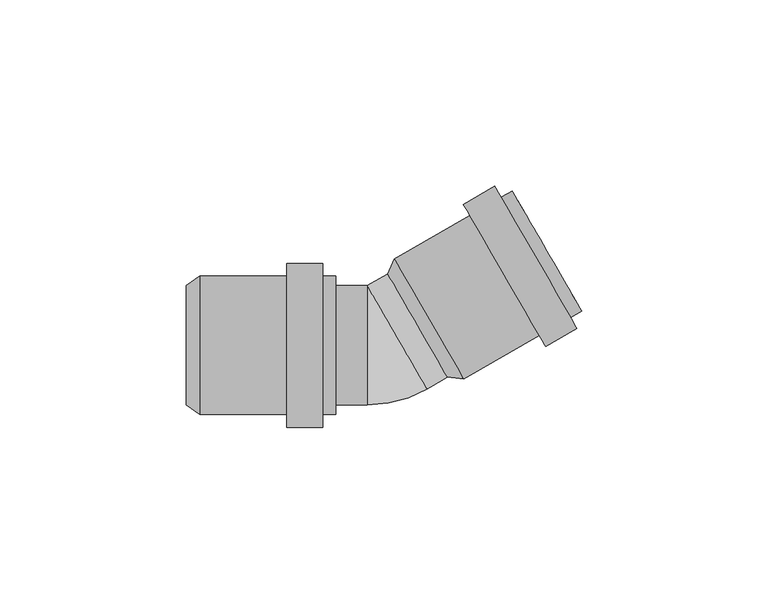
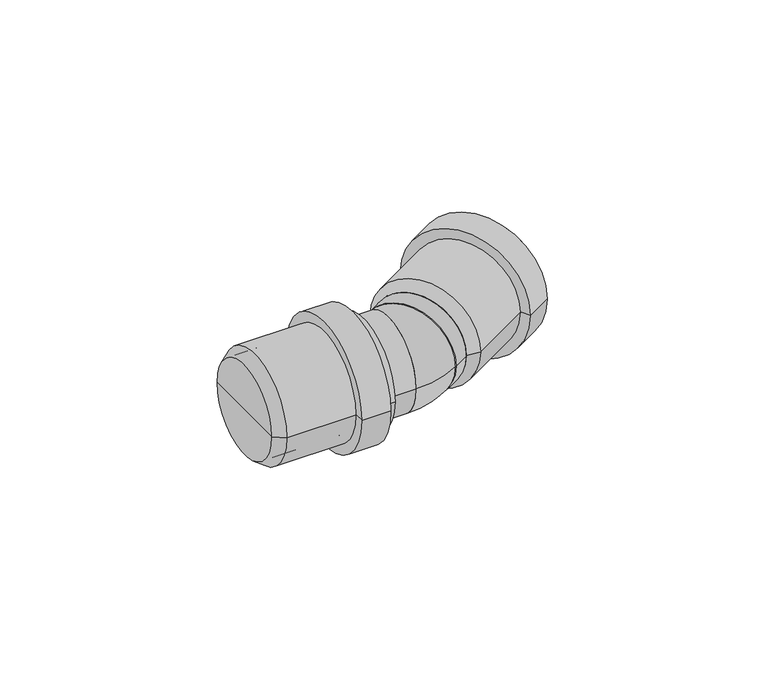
"""IFC4 building model written with IfcOpenShell, lengths in millimetres: pipe fitting geometry, pf_HTB : pf_HTB."""

from ifc_helpers import new_model, si_unit, point, frame, origin, origin_2d, place, context, project, spatial, polyline, circle_curve, ellipse_curve, trimmed, segment, composite_curve, outline, extrude, source, transform, mapped, element, save
from ifc_brep_helpers import plane_surface, cylinder_surface, revolved_surface, advanced_brep


def pipe_fitting_9d65ed2c(model_context):
    return source(origin(), model_context, "Body", "SolidModel", [
        advanced_brep(
        [(17.1798693, -8.5564065, 0.0), (1.1798693, 19.1564065, 0.0), (2.9109582, 23.1580725, 0.0), (21.5109582, -9.0580725, 0.0), (9.1798693, 5.3, 0.0), (53.1208854, 9.1919275, 0.0), (34.5208854, 41.4080725, 0.0), (35.8208854, 39.1564065, 0.0), (51.8208854, 11.4435935, 0.0), (50.1763991, 7.4919275, 0.0), (31.5763991, 39.7080725, 0.0), (51.8763991, 4.5474411, 0.0), (29.8763991, 42.6525589, 0.0), (43.4759526, -0.3025589, 0.0), (21.4759526, 37.8025589, 0.0), (41.7759526, 2.6419275, 0.0), (23.1759526, 34.8580725, 0.0), (20.2109582, -6.8064065, 0.0), (4.2109582, 20.9064065, 0.0), (12.2109582, 7.05, 0.0)],
        [
            (0, 1, circle_curve(frame((9.1798693, 5.3, 0.0), z_axis=(0.8660254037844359, 0.5000000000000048, 0.0), x_axis=(-0.5000000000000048, 0.8660254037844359, 0.0)), 16.0)),
            (1, 2),
            (2, 3, circle_curve(frame((12.2109582, 7.05, 0.0), z_axis=(-0.8660254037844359, -0.5000000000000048, 0.0), x_axis=(-0.5000000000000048, 0.8660254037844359, 0.0)), 18.6)),
            (3, 0),
            (1, 0, circle_curve(frame((9.1798693, 5.3, 0.0), z_axis=(0.8660254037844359, 0.5000000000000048, 0.0), x_axis=(-0.5000000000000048, 0.8660254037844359, 0.0)), 16.0)),
            (3, 2, circle_curve(frame((12.2109582, 7.05, 0.0), z_axis=(-0.8660254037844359, -0.5000000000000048, 0.0), x_axis=(-0.5000000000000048, 0.8660254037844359, 0.0)), 18.6)),
            (4, 1),
            (0, 4),
            (5, 6, circle_curve(frame((43.8208854, 25.3, 0.0), z_axis=(0.8660254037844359, 0.5000000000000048, 0.0), x_axis=(-0.5000000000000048, 0.8660254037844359, 0.0)), 18.6)),
            (6, 7),
            (7, 8, circle_curve(frame((43.8208854, 25.3, 0.0), z_axis=(-0.8660254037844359, -0.5000000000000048, 0.0), x_axis=(-0.5000000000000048, 0.8660254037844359, 0.0)), 16.0)),
            (8, 5),
            (6, 5, circle_curve(frame((43.8208854, 25.3, 0.0), z_axis=(0.8660254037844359, 0.5000000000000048, 0.0), x_axis=(-0.5000000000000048, 0.8660254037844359, 0.0)), 18.6)),
            (8, 7, circle_curve(frame((43.8208854, 25.3, 0.0), z_axis=(-0.8660254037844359, -0.5000000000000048, 0.0), x_axis=(-0.5000000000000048, 0.8660254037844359, 0.0)), 16.0)),
            (9, 10, circle_curve(frame((40.8763991, 23.6, 0.0), z_axis=(0.8660254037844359, 0.5000000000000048, 0.0), x_axis=(-0.5000000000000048, 0.8660254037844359, 0.0)), 18.6)),
            (10, 6),
            (5, 9),
            (10, 9, circle_curve(frame((40.8763991, 23.6, 0.0), z_axis=(0.8660254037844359, 0.5000000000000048, 0.0), x_axis=(-0.5000000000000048, 0.8660254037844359, 0.0)), 18.6)),
            (11, 12, circle_curve(frame((40.8763991, 23.6, 0.0), z_axis=(0.8660254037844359, 0.5000000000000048, 0.0), x_axis=(-0.5000000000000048, 0.8660254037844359, 0.0)), 22.0)),
            (12, 10),
            (9, 11),
            (12, 11, circle_curve(frame((40.8763991, 23.6, 0.0), z_axis=(0.8660254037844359, 0.5000000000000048, 0.0), x_axis=(-0.5000000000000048, 0.8660254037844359, 0.0)), 22.0)),
            (13, 14, circle_curve(frame((32.4759526, 18.75, 0.0), z_axis=(0.8660254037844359, 0.5000000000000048, 0.0), x_axis=(-0.5000000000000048, 0.8660254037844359, 0.0)), 22.0)),
            (14, 12),
            (11, 13),
            (14, 13, circle_curve(frame((32.4759526, 18.75, 0.0), z_axis=(0.8660254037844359, 0.5000000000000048, 0.0), x_axis=(-0.5000000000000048, 0.8660254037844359, 0.0)), 22.0)),
            (15, 16, circle_curve(frame((32.4759526, 18.75, 0.0), z_axis=(0.8660254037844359, 0.5000000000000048, 0.0), x_axis=(-0.5000000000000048, 0.8660254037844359, 0.0)), 18.6)),
            (16, 14),
            (13, 15),
            (16, 15, circle_curve(frame((32.4759526, 18.75, 0.0), z_axis=(0.8660254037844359, 0.5000000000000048, 0.0), x_axis=(-0.5000000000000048, 0.8660254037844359, 0.0)), 18.6)),
            (2, 16),
            (15, 3),
            (17, 18, circle_curve(frame((12.2109582, 7.05, 0.0), z_axis=(0.8660254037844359, 0.5000000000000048, 0.0), x_axis=(-0.5000000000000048, 0.8660254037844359, 0.0)), 16.0)),
            (18, 19),
            (19, 17),
            (18, 17, circle_curve(frame((12.2109582, 7.05, 0.0), z_axis=(0.8660254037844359, 0.5000000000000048, 0.0), x_axis=(-0.5000000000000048, 0.8660254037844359, 0.0)), 16.0)),
            (7, 18),
            (17, 8),
        ],
        [
            revolved_surface(polyline([(2.9109582, 23.1580725, 0.0), (1.1798693, 19.1564065, 0.0)]), (9.1798693, 5.3, 0.0), (-0.8660254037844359, -0.5000000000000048, 0.0)),
            plane_surface(frame((9.1798693, 5.3, 0.0), z_axis=(-0.8660254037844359, -0.5000000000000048, 0.0), x_axis=(-0.5000000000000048, 0.8660254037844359, 0.0))),
            plane_surface(frame((43.8208854, 25.3, 0.0), z_axis=(0.8660254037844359, 0.5000000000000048, 0.0), x_axis=(-0.5000000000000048, 0.8660254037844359, 0.0))),
            cylinder_surface(frame((9.1798693, 5.3, 0.0), z_axis=(-0.8660254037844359, -0.5000000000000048, 0.0), x_axis=(-0.5000000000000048, 0.8660254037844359, 0.0)), 18.6),
            plane_surface(frame((40.8763991, 23.6, 0.0), z_axis=(0.8660254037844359, 0.5000000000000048, 0.0), x_axis=(-0.5000000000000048, 0.8660254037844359, 0.0))),
            cylinder_surface(frame((9.1798693, 5.3, 0.0), z_axis=(-0.8660254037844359, -0.5000000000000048, 0.0), x_axis=(-0.5000000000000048, 0.8660254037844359, 0.0)), 22.0),
            plane_surface(frame((32.4759526, 18.75, 0.0), z_axis=(-0.8660254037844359, -0.5000000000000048, 0.0), x_axis=(-0.5000000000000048, 0.8660254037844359, 0.0))),
            plane_surface(frame((12.2109582, 7.05, 0.0), z_axis=(0.8660254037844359, 0.5000000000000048, 0.0), x_axis=(-0.5000000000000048, 0.8660254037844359, 0.0))),
            revolved_surface(polyline([(4.210958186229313, 20.90640644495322, 0.0), (35.82088542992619, 39.15640644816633, 0.0)]), (9.1798693, 5.3, 0.0), (-0.8660254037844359, -0.5000000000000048, 0.0)),
        ],
        [
            (0, [[1, 2, 3, 4]]),
            (0, [[5, -4, 6, -2]]),
            (1, [[7, -1, 8]]),
            (1, [[-8, -5, -7]]),
            (2, [[9, 10, 11, 12]]),
            (2, [[13, -12, 14, -10]]),
            (3, [[15, 16, -9, 17]]),
            (3, [[18, -17, -13, -16]]),
            (4, [[19, 20, -15, 21]]),
            (4, [[22, -21, -18, -20]]),
            (5, [[23, 24, -19, 25]]),
            (5, [[26, -25, -22, -24]]),
            (6, [[27, 28, -23, 29]]),
            (6, [[30, -29, -26, -28]]),
            (3, [[-3, 31, -27, 32]]),
            (3, [[-6, -32, -30, -31]]),
            (7, [[33, 34, 35]]),
            (7, [[36, -35, -34]]),
            (8, [[-11, 37, -33, 38]]),
            (8, [[-14, -38, -36, -37]]),
        ],
    ),
        advanced_brep(
        [(-52.8, -16.0, 0.0), (-52.8, 16.0, 0.0), (-49.3, 18.6, 0.0), (-49.3, -18.6, 0.0), (-52.8, 0.0, 0.0), (-12.8, -18.6, 0.0), (-12.8, 18.6, 0.0), (-12.8, 16.0, 0.0), (-12.8, -16.0, 0.0), (-16.2, -18.6, 0.0), (-16.2, 18.6, 0.0), (-16.2, -22.0, 0.0), (-16.2, 22.0, 0.0), (-25.9, -22.0, 0.0), (-25.9, 22.0, 0.0), (-25.9, -18.6, 0.0), (-25.9, 18.6, 0.0), (-49.3, -16.0, 0.0), (-49.3, 16.0, 0.0), (-49.3, 0.0, 0.0)],
        [
            (0, 1, circle_curve(frame((-52.8, 0.0, 0.0), z_axis=(1.0, 0.0, 0.0), x_axis=(0.0, 1.0, 0.0)), 16.0)),
            (1, 2),
            (2, 3, circle_curve(frame((-49.3, 0.0, 0.0), z_axis=(-1.0, 0.0, 0.0), x_axis=(0.0, 1.0, 0.0)), 18.6)),
            (3, 0),
            (1, 0, circle_curve(frame((-52.8, 0.0, 0.0), z_axis=(1.0, 0.0, 0.0), x_axis=(0.0, 1.0, 0.0)), 16.0)),
            (3, 2, circle_curve(frame((-49.3, 0.0, 0.0), z_axis=(-1.0, 0.0, 0.0), x_axis=(0.0, 1.0, 0.0)), 18.6)),
            (4, 1),
            (0, 4),
            (5, 6, circle_curve(frame((-12.8, 0.0, 0.0), z_axis=(1.0, 0.0, 0.0), x_axis=(0.0, 1.0, 0.0)), 18.6)),
            (6, 7),
            (7, 8, circle_curve(frame((-12.8, 0.0, 0.0), z_axis=(-1.0, 0.0, 0.0), x_axis=(0.0, 1.0, 0.0)), 16.0)),
            (8, 5),
            (6, 5, circle_curve(frame((-12.8, 0.0, 0.0), z_axis=(1.0, 0.0, 0.0), x_axis=(0.0, 1.0, 0.0)), 18.6)),
            (8, 7, circle_curve(frame((-12.8, 0.0, 0.0), z_axis=(-1.0, 0.0, 0.0), x_axis=(0.0, 1.0, 0.0)), 16.0)),
            (9, 10, circle_curve(frame((-16.2, 0.0, 0.0), z_axis=(1.0, 0.0, 0.0), x_axis=(0.0, 1.0, 0.0)), 18.6)),
            (10, 6),
            (5, 9),
            (10, 9, circle_curve(frame((-16.2, 0.0, 0.0), z_axis=(1.0, 0.0, 0.0), x_axis=(0.0, 1.0, 0.0)), 18.6)),
            (11, 12, circle_curve(frame((-16.2, 0.0, 0.0), z_axis=(1.0, 0.0, 0.0), x_axis=(0.0, 1.0, 0.0)), 22.0)),
            (12, 10),
            (9, 11),
            (12, 11, circle_curve(frame((-16.2, 0.0, 0.0), z_axis=(1.0, 0.0, 0.0), x_axis=(0.0, 1.0, 0.0)), 22.0)),
            (13, 14, circle_curve(frame((-25.9, 0.0, 0.0), z_axis=(1.0, 0.0, 0.0), x_axis=(0.0, 1.0, 0.0)), 22.0)),
            (14, 12),
            (11, 13),
            (14, 13, circle_curve(frame((-25.9, 0.0, 0.0), z_axis=(1.0, 0.0, 0.0), x_axis=(0.0, 1.0, 0.0)), 22.0)),
            (15, 16, circle_curve(frame((-25.9, 0.0, 0.0), z_axis=(1.0, 0.0, 0.0), x_axis=(0.0, 1.0, 0.0)), 18.6)),
            (16, 14),
            (13, 15),
            (16, 15, circle_curve(frame((-25.9, 0.0, 0.0), z_axis=(1.0, 0.0, 0.0), x_axis=(0.0, 1.0, 0.0)), 18.6)),
            (2, 16),
            (15, 3),
            (17, 18, circle_curve(frame((-49.3, 0.0, 0.0), z_axis=(1.0, 0.0, 0.0), x_axis=(0.0, 1.0, 0.0)), 16.0)),
            (18, 19),
            (19, 17),
            (18, 17, circle_curve(frame((-49.3, 0.0, 0.0), z_axis=(1.0, 0.0, 0.0), x_axis=(0.0, 1.0, 0.0)), 16.0)),
            (7, 18),
            (17, 8),
        ],
        [
            revolved_surface(polyline([(-49.3, 18.6, 0.0), (-52.8, 16.0, 0.0)]), (-52.8, 0.0, 0.0), (-1.0, 0.0, 0.0)),
            plane_surface(frame((-52.8, 0.0, 0.0), z_axis=(-1.0, 0.0, 0.0), x_axis=(0.0, 1.0, 0.0))),
            plane_surface(frame((-12.8, 0.0, 0.0), z_axis=(1.0, 0.0, 0.0), x_axis=(0.0, 1.0, 0.0))),
            cylinder_surface(frame((-52.8, 0.0, 0.0), z_axis=(-1.0, 0.0, 0.0), x_axis=(0.0, 1.0, 0.0)), 18.6),
            plane_surface(frame((-16.2, 0.0, 0.0), z_axis=(1.0, 0.0, 0.0), x_axis=(0.0, 1.0, 0.0))),
            cylinder_surface(frame((-52.8, 0.0, 0.0), z_axis=(-1.0, 0.0, 0.0), x_axis=(0.0, 1.0, 0.0)), 22.0),
            plane_surface(frame((-25.9, 0.0, 0.0), z_axis=(-1.0, 0.0, 0.0), x_axis=(0.0, 1.0, 0.0))),
            plane_surface(frame((-49.3, 0.0, 0.0), z_axis=(1.0, 0.0, 0.0), x_axis=(0.0, 1.0, 0.0))),
            revolved_surface(polyline([(-49.3, 16.0, 0.0), (-12.799999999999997, 16.0, 0.0)]), (-52.8, 0.0, 0.0), (-1.0, 0.0, 0.0)),
        ],
        [
            (0, [[1, 2, 3, 4]]),
            (0, [[5, -4, 6, -2]]),
            (1, [[7, -1, 8]]),
            (1, [[-8, -5, -7]]),
            (2, [[9, 10, 11, 12]]),
            (2, [[13, -12, 14, -10]]),
            (3, [[15, 16, -9, 17]]),
            (3, [[18, -17, -13, -16]]),
            (4, [[19, 20, -15, 21]]),
            (4, [[22, -21, -18, -20]]),
            (5, [[23, 24, -19, 25]]),
            (5, [[26, -25, -22, -24]]),
            (6, [[27, 28, -23, 29]]),
            (6, [[30, -29, -26, -28]]),
            (3, [[-3, 31, -27, 32]]),
            (3, [[-6, -32, -30, -31]]),
            (7, [[33, 34, 35]]),
            (7, [[36, -35, -34]]),
            (8, [[-11, 37, -33, 38]]),
            (8, [[-14, -38, -36, -37]]),
        ],
    ),
        extrude(outline(composite_curve([segment(trimmed(circle_curve(origin_2d(), 16.0), [point((0.0, -16.0))], [point((0.0, 15.9999999))], False, "CARTESIAN"), True, "CONTINUOUS"), segment(trimmed(circle_curve(origin_2d(), 16.0), [point((0.0, 15.9999999))], [point((0.0, -16.0))], False, "CARTESIAN"), True, "CONTINUOUS")], self_intersect=False)), frame((3.7128129, 2.1435935, 0.0), z_axis=(0.8660254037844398, 0.49999999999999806, 0.0), x_axis=(0.0, 0.0, 1.0)), (0.0, 0.0, 1.0), 9.8128129),
        extrude(outline(composite_curve([segment(trimmed(circle_curve(origin_2d(), 16.0), [point((-16.0, 0.0))], [point((16.0, 0.0))], False, "CARTESIAN"), True, "CONTINUOUS"), segment(trimmed(circle_curve(origin_2d(), 16.0), [point((16.0, 0.0))], [point((-16.0, 0.0))], False, "CARTESIAN"), True, "CONTINUOUS")], self_intersect=False)), frame((-49.3, 0.0, 0.0), z_axis=(1.0, 0.0, 0.0), x_axis=(0.0, 1.0, 0.0)), (0.0, 0.0, 1.0), 45.0128129),
        advanced_brep(
        [(-4.2871871, -16.0, 0.0), (-4.2871871, 16.0, 0.0), (11.7128129, -11.7128129, 0.0)],
        [
            (0, 1, circle_curve(frame((-4.2871871, 0.0, 0.0), z_axis=(-1.0, 0.0, 0.0), x_axis=(0.0, 1.0, 0.0)), 16.0)),
            (1, 0, circle_curve(frame((-4.2871871, 0.0, 0.0), z_axis=(-1.0, 0.0, 0.0), x_axis=(0.0, 1.0, 0.0)), 16.0)),
            (2, 1, circle_curve(frame((3.7128129, 2.1435935, 0.0), z_axis=(0.8660254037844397, 0.49999999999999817, 0.0), x_axis=(-0.49999999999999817, 0.8660254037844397, 0.0)), 16.0)),
            (1, 2, circle_curve(frame((3.7128129, 2.1435935, 0.0), z_axis=(0.8660254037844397, 0.49999999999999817, 0.0), x_axis=(-0.49999999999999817, 0.8660254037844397, 0.0)), 16.0)),
            (2, 0, circle_curve(frame((-4.2871871, 16.0, 0.0), z_axis=(0.0, 0.0, -1.0), x_axis=(0.0, -1.0, 0.0)), 32.0)),
        ],
        [
            plane_surface(frame((-4.2871871, 16.0, -14.8), z_axis=(-1.0, 0.0, 0.0), x_axis=(0.0, -1.0, 0.0))),
            plane_surface(frame((-4.2871871, 16.0, -14.8), z_axis=(0.8660254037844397, 0.4999999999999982, 0.0), x_axis=(0.4999999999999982, -0.8660254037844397, 0.0))),
            revolved_surface(trimmed(ellipse_curve(frame((-4.2871871, 0.0, 0.0), z_axis=(1.0, 0.0, 0.0), x_axis=(0.0, 1.0, 0.0)), 16.0, 16.0), [point((-4.2871871, -16.0, 0.0))], [point((-4.2871871, 16.0, 0.0))], True, "CARTESIAN"), (-4.2871871, 16.0, -14.8), (0.0, 0.0, -1.0)),
            revolved_surface(trimmed(ellipse_curve(frame((-4.2871871, 0.0, 0.0), z_axis=(1.0, 0.0, 0.0), x_axis=(0.0, 1.0, 0.0)), 16.0, 16.0), [point((-4.2871871, 16.0, 0.0))], [point((-4.2871871, -16.0, 0.0))], True, "CARTESIAN"), (-4.2871871, 16.0, -14.8), (0.0, 0.0, -1.0)),
        ],
        [
            (0, [[1, 2]]),
            (1, [[3, 4]]),
            (2, [[5, -2, -3]]),
            (3, [[-1, -5, -4]]),
        ],
    ),
    ])


if __name__ == "__main__":
    model = new_model("IFC4")
    model_context = context("Model", 3, world=origin())
    ifc_project = project(units=[si_unit("LENGTHUNIT", "METRE", prefix="MILLI")], contexts=[model_context])
    site = spatial("IfcSite", under=ifc_project)
    building = spatial("IfcBuilding", under=site)
    placement = place(None, origin())
    pipe_fitting_shape = pipe_fitting_9d65ed2c(model_context)
    element("IfcPipeFitting", 1, ObjectType="pf_HTB : pf_HTB", at=placement, inside=building, context=model_context, shape_type="MappedRepresentation", body=[
        mapped(pipe_fitting_shape, transform((0.0, 0.0, 0.0), x_axis=(1.0, 0.0, 0.0), y_axis=(0.0, 1.0, 0.0), z_axis=(0.0, 0.0, 1.0))),
    ])
    save(model, "model.ifc")
